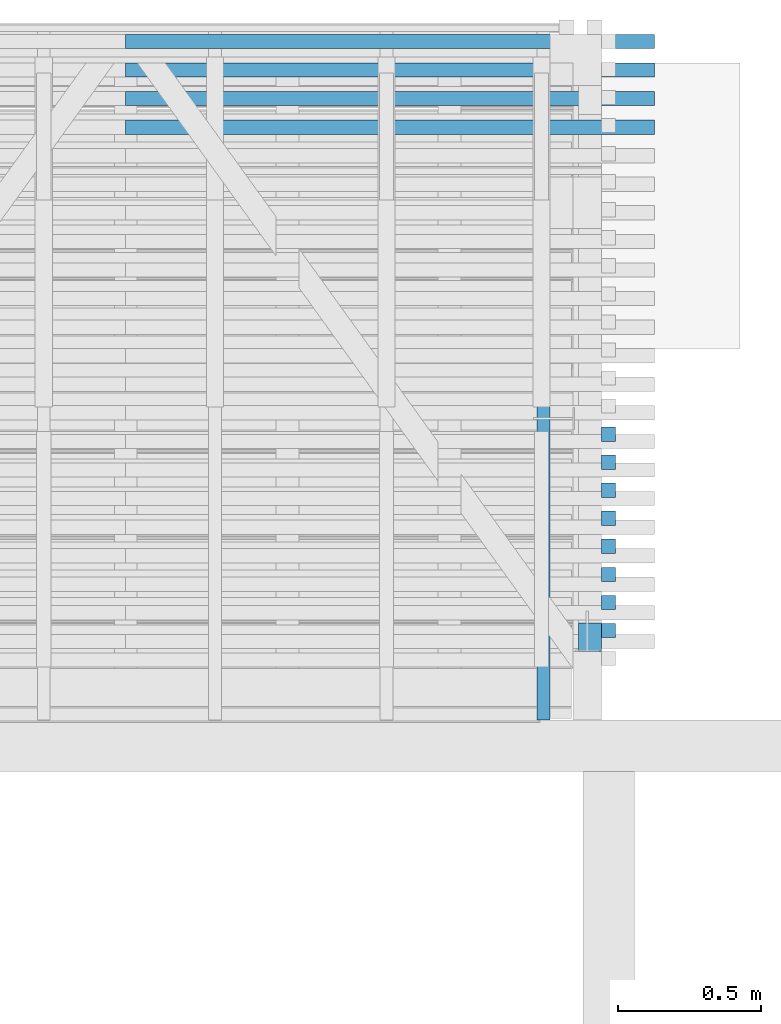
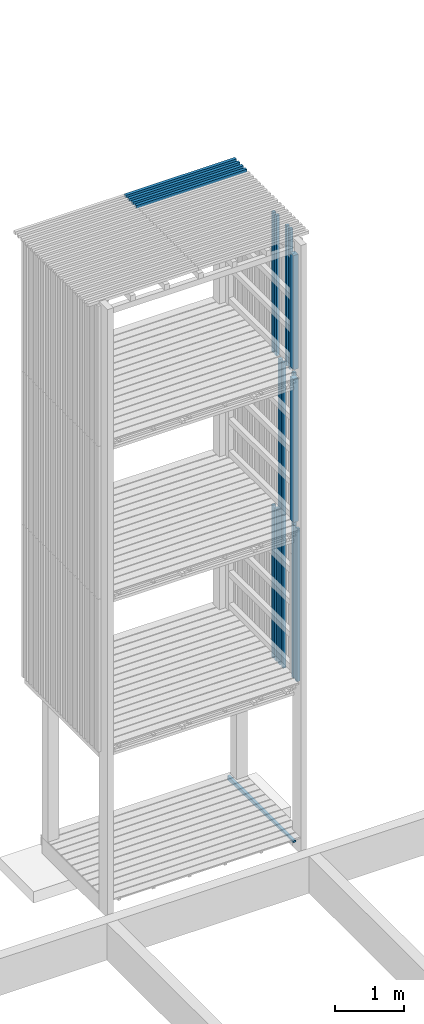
# One storey, part 154 of 182: 20 beams.
"""IFC2X3 building model written with IfcOpenShell, lengths in metres."""

from ifc_helpers import new_model, si_unit, frame, origin, place, context, project, spatial, faceted_brep, element, save


model = new_model("IFC2X3")

# Units and contexts
model_context = context("Model", 3, precision=1e-06, world=origin())
ifc_project = project(units=[si_unit("LENGTHUNIT", "METRE"), si_unit("PLANEANGLEUNIT", "RADIAN")], contexts=[model_context])

# Site, building, storey
site = spatial("IfcSite", under=ifc_project, CompositionType="ELEMENT")
building = spatial("IfcBuilding", under=site, CompositionType="ELEMENT")
storey = spatial("IfcBuildingStorey", under=building, Name="vs", CompositionType="ELEMENT", Elevation=-0.85)

# Beams
placement = place(None, origin())
beam_1_placement = place(placement, frame((36.40999999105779, 11.17598679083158, 2.575000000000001), z_axis=(-1.0, 0.0, 0.0), x_axis=(0.0, 0.0, 1.0)))
element("IfcBeam", 1, at=beam_1_placement, inside=storey, Name="Bardage", context=model_context, shape_type="Brep", body=[
    faceted_brep([(0.0, -0.025000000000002, 0.024999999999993), (0.0, 0.024999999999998, 0.024999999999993), (0.0, 0.024999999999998, -0.025000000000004), (0.0, -0.025000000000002, -0.025000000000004), (2.699961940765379, 0.025000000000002, -0.025000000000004), (2.699961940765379, 0.025000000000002, 0.024999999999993), (2.699961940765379, -0.025000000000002, 0.024999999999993), (2.699961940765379, -0.025000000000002, -0.025000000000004), (0.0, -0.025000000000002, -0.025000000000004), (0.0, 0.024999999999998, -0.025000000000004), (2.699961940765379, 0.025000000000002, -0.025000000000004), (2.699961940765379, -0.025000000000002, -0.025000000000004), (2.699961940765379, 0.025000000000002, -0.025000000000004), (0.0, 0.024999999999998, -0.025000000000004), (0.0, 0.024999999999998, 0.024999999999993), (2.699961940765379, 0.025000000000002, 0.024999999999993), (2.699961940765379, 0.025000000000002, 0.024999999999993), (0.0, 0.024999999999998, 0.024999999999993), (0.0, -0.025000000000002, 0.024999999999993), (2.699961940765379, -0.025000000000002, 0.024999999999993), (2.699961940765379, -0.025000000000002, 0.024999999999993), (0.0, -0.025000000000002, 0.024999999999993), (0.0, -0.025000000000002, -0.025000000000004), (2.699961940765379, -0.025000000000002, -0.025000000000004)], [[[0, 1, 2, 3]], [[4, 5, 6, 7]], [[8, 9, 10, 11]], [[12, 13, 14, 15]], [[16, 17, 18, 19]], [[20, 21, 22, 23]]]),
])
beam_2_placement = place(placement, frame((36.40999999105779, 11.470532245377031, 2.575000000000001), z_axis=(-1.0, 0.0, 0.0), x_axis=(0.0, 0.0, 1.0)))
element("IfcBeam", 2, at=beam_2_placement, inside=storey, Name="Bardage", context=model_context, shape_type="Brep", body=[
    faceted_brep([(0.0, -0.025000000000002, 0.024999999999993), (0.0, 0.025000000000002, 0.024999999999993), (0.0, 0.025000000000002, -0.025000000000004), (0.0, -0.025000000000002, -0.025000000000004), (2.699961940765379, 0.025000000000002, -0.025000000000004), (2.699961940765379, 0.025000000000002, 0.024999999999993), (2.699961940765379, -0.025000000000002, 0.024999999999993), (2.699961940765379, -0.025000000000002, -0.025000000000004), (0.0, -0.025000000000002, -0.025000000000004), (0.0, 0.025000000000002, -0.025000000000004), (2.699961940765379, 0.025000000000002, -0.025000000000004), (2.699961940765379, -0.025000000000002, -0.025000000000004), (2.699961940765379, 0.025000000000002, -0.025000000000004), (0.0, 0.025000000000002, -0.025000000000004), (0.0, 0.025000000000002, 0.024999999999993), (2.699961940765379, 0.025000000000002, 0.024999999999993), (2.699961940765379, 0.025000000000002, 0.024999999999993), (0.0, 0.025000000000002, 0.024999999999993), (0.0, -0.025000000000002, 0.024999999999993), (2.699961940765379, -0.025000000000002, 0.024999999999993), (2.699961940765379, -0.025000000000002, 0.024999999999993), (0.0, -0.025000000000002, 0.024999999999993), (0.0, -0.025000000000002, -0.025000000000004), (2.699961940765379, -0.025000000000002, -0.025000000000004)], [[[0, 1, 2, 3]], [[4, 5, 6, 7]], [[8, 9, 10, 11]], [[12, 13, 14, 15]], [[16, 17, 18, 19]], [[20, 21, 22, 23]]]),
])
beam_3_placement = place(placement, frame((36.40999999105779, 11.372350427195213, 7.974999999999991), z_axis=(-1.0, 0.0, 0.0), x_axis=(0.0, 0.0, 1.0)))
element("IfcBeam", 3, at=beam_3_placement, inside=storey, Name="Bardage", context=model_context, shape_type="Brep", body=[
    faceted_brep([(2.479999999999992, -0.024999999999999, 0.024999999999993), (2.479999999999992, -0.024999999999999, -0.025000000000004), (2.479999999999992, 0.024999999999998, -0.025000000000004), (2.479999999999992, 0.024999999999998, 0.024999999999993), (0.0, 0.024999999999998, 0.024999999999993), (0.0, -0.024999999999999, 0.024999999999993), (2.479999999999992, -0.024999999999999, 0.024999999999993), (2.479999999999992, 0.024999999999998, 0.024999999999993), (0.0, -0.024999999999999, 0.024999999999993), (0.0, 0.024999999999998, 0.024999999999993), (0.0, 0.024999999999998, -0.025000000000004), (0.0, -0.024999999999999, -0.025000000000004), (0.0, 0.024999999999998, -0.025000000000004), (0.0, 0.024999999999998, 0.024999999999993), (2.479999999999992, 0.024999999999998, 0.024999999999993), (2.479999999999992, 0.024999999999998, -0.025000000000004), (0.0, -0.024999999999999, -0.025000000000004), (0.0, 0.024999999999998, -0.025000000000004), (2.479999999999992, 0.024999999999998, -0.025000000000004), (2.479999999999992, -0.024999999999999, -0.025000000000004), (2.479999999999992, -0.024999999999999, 0.024999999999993), (0.0, -0.024999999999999, 0.024999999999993), (0.0, -0.024999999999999, -0.025000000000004), (2.479999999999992, -0.024999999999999, -0.025000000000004)], [[[0, 1, 2, 3]], [[4, 5, 6, 7]], [[8, 9, 10, 11]], [[12, 13, 14, 15]], [[16, 17, 18, 19]], [[20, 21, 22, 23]]]),
])
beam_4_placement = place(placement, frame((36.40999999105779, 10.881441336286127, 2.575000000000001), z_axis=(-1.0, 0.0, 0.0), x_axis=(0.0, 0.0, 1.0)))
element("IfcBeam", 4, at=beam_4_placement, inside=storey, Name="Bardage", context=model_context, shape_type="Brep", body=[
    faceted_brep([(0.0, -0.024999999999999, 0.024999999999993), (0.0, 0.025000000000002, 0.024999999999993), (0.0, 0.025000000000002, -0.025000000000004), (0.0, -0.024999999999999, -0.025000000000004), (2.699961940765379, 0.025000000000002, -0.025000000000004), (2.699961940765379, 0.025000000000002, 0.024999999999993), (2.699961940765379, -0.024999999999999, 0.024999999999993), (2.699961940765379, -0.024999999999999, -0.025000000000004), (0.0, -0.024999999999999, -0.025000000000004), (0.0, 0.025000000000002, -0.025000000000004), (2.699961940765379, 0.025000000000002, -0.025000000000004), (2.699961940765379, -0.024999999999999, -0.025000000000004), (2.699961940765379, 0.025000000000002, -0.025000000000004), (0.0, 0.025000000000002, -0.025000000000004), (0.0, 0.025000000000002, 0.024999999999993), (2.699961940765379, 0.025000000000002, 0.024999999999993), (2.699961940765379, 0.025000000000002, 0.024999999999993), (0.0, 0.025000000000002, 0.024999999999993), (0.0, -0.024999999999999, 0.024999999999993), (2.699961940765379, -0.024999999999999, 0.024999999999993), (2.699961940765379, -0.024999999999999, 0.024999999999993), (0.0, -0.024999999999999, 0.024999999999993), (0.0, -0.024999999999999, -0.025000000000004), (2.699961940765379, -0.024999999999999, -0.025000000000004)], [[[0, 1, 2, 3]], [[4, 5, 6, 7]], [[8, 9, 10, 11]], [[12, 13, 14, 15]], [[16, 17, 18, 19]], [[20, 21, 22, 23]]]),
])
beam_5_placement = place(placement, frame((36.40999999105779, 11.372350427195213, 2.575000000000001), z_axis=(-1.0, 0.0, 0.0), x_axis=(0.0, 0.0, 1.0)))
element("IfcBeam", 5, at=beam_5_placement, inside=storey, Name="Bardage", context=model_context, shape_type="Brep", body=[
    faceted_brep([(0.0, -0.024999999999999, 0.024999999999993), (0.0, 0.024999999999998, 0.024999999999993), (0.0, 0.024999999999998, -0.025000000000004), (0.0, -0.024999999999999, -0.025000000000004), (2.699961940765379, 0.025000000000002, -0.025000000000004), (2.699961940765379, 0.025000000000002, 0.024999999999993), (2.699961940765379, -0.024999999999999, 0.024999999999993), (2.699961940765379, -0.024999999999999, -0.025000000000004), (0.0, -0.024999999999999, -0.025000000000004), (0.0, 0.024999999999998, -0.025000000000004), (2.699961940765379, 0.025000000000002, -0.025000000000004), (2.699961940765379, -0.024999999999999, -0.025000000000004), (2.699961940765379, 0.025000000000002, -0.025000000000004), (0.0, 0.024999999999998, -0.025000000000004), (0.0, 0.024999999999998, 0.024999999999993), (2.699961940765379, 0.025000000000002, 0.024999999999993), (2.699961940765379, 0.025000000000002, 0.024999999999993), (0.0, 0.024999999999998, 0.024999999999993), (0.0, -0.024999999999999, 0.024999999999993), (2.699961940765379, -0.024999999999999, 0.024999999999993), (2.699961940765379, -0.024999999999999, 0.024999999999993), (0.0, -0.024999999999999, 0.024999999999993), (0.0, -0.024999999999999, -0.025000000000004), (2.699961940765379, -0.024999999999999, -0.025000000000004)], [[[0, 1, 2, 3]], [[4, 5, 6, 7]], [[8, 9, 10, 11]], [[12, 13, 14, 15]], [[16, 17, 18, 19]], [[20, 21, 22, 23]]]),
])
beam_6_placement = place(placement, frame((36.40999999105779, 11.17598679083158, 5.274999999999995), z_axis=(-1.0, 0.0, 0.0), x_axis=(0.0, 0.0, 1.0)))
element("IfcBeam", 6, at=beam_6_placement, inside=storey, Name="Bardage", context=model_context, shape_type="Brep", body=[
    faceted_brep([(1e-15, -0.025000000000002, 0.024999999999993), (1e-15, 0.024999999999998, 0.024999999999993), (1e-15, 0.024999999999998, -0.025000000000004), (1e-15, -0.025000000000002, -0.025000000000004), (2.699999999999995, -0.025000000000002, -0.025000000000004), (2.699999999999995, 0.024999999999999, -0.025000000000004), (2.699999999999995, 0.024999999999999, 0.024999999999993), (2.699999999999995, -0.025000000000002, 0.024999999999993), (1e-15, -0.025000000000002, 0.024999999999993), (1e-15, -0.025000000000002, -0.025000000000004), (2.699999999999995, -0.025000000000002, -0.025000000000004), (2.699999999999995, -0.025000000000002, 0.024999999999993), (2.699999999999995, -0.025000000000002, -0.025000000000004), (1e-15, -0.025000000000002, -0.025000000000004), (1e-15, 0.024999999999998, -0.025000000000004), (2.699999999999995, 0.024999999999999, -0.025000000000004), (2.699999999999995, 0.024999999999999, -0.025000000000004), (1e-15, 0.024999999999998, -0.025000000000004), (1e-15, 0.024999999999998, 0.024999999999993), (2.699999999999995, 0.024999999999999, 0.024999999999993), (2.699999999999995, 0.024999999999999, 0.024999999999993), (1e-15, 0.024999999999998, 0.024999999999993), (1e-15, -0.025000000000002, 0.024999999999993), (2.699999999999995, -0.025000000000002, 0.024999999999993)], [[[0, 1, 2, 3]], [[4, 5, 6, 7]], [[8, 9, 10, 11]], [[12, 13, 14, 15]], [[16, 17, 18, 19]], [[20, 21, 22, 23]]]),
])
beam_7_placement = place(placement, frame((36.344999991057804, 10.760077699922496, 8.14699999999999), z_axis=(0.0, 1.0, 0.0), x_axis=(0.0, 0.0, 1.0)))
element("IfcBeam", 7, at=beam_7_placement, inside=storey, Name="Support bardage", context=model_context, shape_type="Brep", body=[
    faceted_brep([(2.017999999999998, 0.039999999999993, -0.050000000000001), (2.017999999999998, 0.039999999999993, 0.05), (2.017999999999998, -0.04000000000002, 0.05), (2.017999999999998, -0.04000000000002, -0.050000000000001), (1e-15, -0.04000000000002, -0.050000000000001), (1e-15, -0.04000000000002, 0.05), (1e-15, 0.039999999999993, 0.05), (1e-15, 0.039999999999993, -0.050000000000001), (1e-15, -0.04000000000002, -0.050000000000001), (1e-15, 0.039999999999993, -0.050000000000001), (2.017999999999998, 0.039999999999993, -0.050000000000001), (2.017999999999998, -0.04000000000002, -0.050000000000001), (1e-15, -0.04000000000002, 0.05), (1e-15, -0.04000000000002, -0.050000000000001), (2.017999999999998, -0.04000000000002, -0.050000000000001), (2.017999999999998, -0.04000000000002, 0.05), (1e-15, 0.039999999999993, 0.05), (1e-15, -0.04000000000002, 0.05), (2.017999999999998, -0.04000000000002, 0.05), (2.017999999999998, 0.039999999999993, 0.05), (1e-15, 0.039999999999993, -0.050000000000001), (1e-15, 0.039999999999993, 0.05), (2.017999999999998, 0.039999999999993, 0.05), (2.017999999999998, 0.039999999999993, -0.050000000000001)], [[[0, 1, 2, 3]], [[4, 5, 6, 7]], [[8, 9, 10, 11]], [[12, 13, 14, 15]], [[16, 17, 18, 19]], [[20, 21, 22, 23]]]),
])
beam_8_placement = place(placement, frame((36.40999999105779, 11.077804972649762, 7.974999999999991), z_axis=(-1.0, 0.0, 0.0), x_axis=(0.0, 0.0, 1.0)))
element("IfcBeam", 8, at=beam_8_placement, inside=storey, Name="Bardage", context=model_context, shape_type="Brep", body=[
    faceted_brep([(2.479999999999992, -0.024999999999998, 0.024999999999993), (2.479999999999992, -0.024999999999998, -0.025000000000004), (2.479999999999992, 0.024999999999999, -0.025000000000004), (2.479999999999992, 0.024999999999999, 0.024999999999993), (0.0, 0.024999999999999, 0.024999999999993), (0.0, -0.024999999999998, 0.024999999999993), (2.479999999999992, -0.024999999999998, 0.024999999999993), (2.479999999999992, 0.024999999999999, 0.024999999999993), (0.0, -0.024999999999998, 0.024999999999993), (0.0, 0.024999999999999, 0.024999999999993), (0.0, 0.024999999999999, -0.025000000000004), (0.0, -0.024999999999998, -0.025000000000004), (0.0, 0.024999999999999, -0.025000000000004), (0.0, 0.024999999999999, 0.024999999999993), (2.479999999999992, 0.024999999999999, 0.024999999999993), (2.479999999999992, 0.024999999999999, -0.025000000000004), (0.0, -0.024999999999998, -0.025000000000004), (0.0, 0.024999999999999, -0.025000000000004), (2.479999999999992, 0.024999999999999, -0.025000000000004), (2.479999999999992, -0.024999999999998, -0.025000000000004), (2.479999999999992, -0.024999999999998, 0.024999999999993), (0.0, -0.024999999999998, 0.024999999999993), (0.0, -0.024999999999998, -0.025000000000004), (2.479999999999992, -0.024999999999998, -0.025000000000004)], [[[0, 1, 2, 3]], [[4, 5, 6, 7]], [[8, 9, 10, 11]], [[12, 13, 14, 15]], [[16, 17, 18, 19]], [[20, 21, 22, 23]]]),
])
beam_9_placement = place(placement, frame((36.40999999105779, 10.881441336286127, 5.274999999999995), z_axis=(-1.0, 0.0, 0.0), x_axis=(0.0, 0.0, 1.0)))
element("IfcBeam", 9, at=beam_9_placement, inside=storey, Name="Bardage", context=model_context, shape_type="Brep", body=[
    faceted_brep([(1e-15, -0.024999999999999, 0.024999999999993), (1e-15, 0.025000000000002, 0.024999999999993), (1e-15, 0.025000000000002, -0.025000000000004), (1e-15, -0.024999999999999, -0.025000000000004), (2.699999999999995, -0.024999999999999, -0.025000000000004), (2.699999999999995, 0.025000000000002, -0.025000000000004), (2.699999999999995, 0.025000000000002, 0.024999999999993), (2.699999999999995, -0.024999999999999, 0.024999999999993), (1e-15, -0.024999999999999, 0.024999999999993), (1e-15, -0.024999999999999, -0.025000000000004), (2.699999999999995, -0.024999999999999, -0.025000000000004), (2.699999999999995, -0.024999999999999, 0.024999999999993), (2.699999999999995, -0.024999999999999, -0.025000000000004), (1e-15, -0.024999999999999, -0.025000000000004), (1e-15, 0.025000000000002, -0.025000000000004), (2.699999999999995, 0.025000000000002, -0.025000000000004), (2.699999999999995, 0.025000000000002, -0.025000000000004), (1e-15, 0.025000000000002, -0.025000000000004), (1e-15, 0.025000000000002, 0.024999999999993), (2.699999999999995, 0.025000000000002, 0.024999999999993), (2.699999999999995, 0.025000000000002, 0.024999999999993), (1e-15, 0.025000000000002, 0.024999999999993), (1e-15, -0.024999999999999, 0.024999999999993), (2.699999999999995, -0.024999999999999, 0.024999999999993)], [[[0, 1, 2, 3]], [[4, 5, 6, 7]], [[8, 9, 10, 11]], [[12, 13, 14, 15]], [[16, 17, 18, 19]], [[20, 21, 22, 23]]]),
])
beam_10_placement = place(placement, frame((36.344999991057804, 10.760077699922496, 5.446999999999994), z_axis=(0.0, 1.0, 0.0), x_axis=(0.0, 0.0, 1.0)))
element("IfcBeam", 10, at=beam_10_placement, inside=storey, Name="Support bardage", context=model_context, shape_type="Brep", body=[
    faceted_brep([(2.527999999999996, -0.04000000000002, -0.050000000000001), (2.527999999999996, 0.039999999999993, -0.050000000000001), (2.527999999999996, 0.039999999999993, 0.05), (2.527999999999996, -0.04000000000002, 0.05), (-1e-15, -0.04000000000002, 0.05), (-1e-15, -0.04000000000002, -0.050000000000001), (2.527999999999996, -0.04000000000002, -0.050000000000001), (2.527999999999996, -0.04000000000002, 0.05), (-1e-15, -0.04000000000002, -0.050000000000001), (-1e-15, -0.04000000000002, 0.05), (-1e-15, 0.039999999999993, 0.05), (-1e-15, 0.039999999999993, -0.050000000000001), (2.527999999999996, -0.04000000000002, -0.050000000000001), (-1e-15, -0.04000000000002, -0.050000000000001), (-1e-15, 0.039999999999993, -0.050000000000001), (2.527999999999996, 0.039999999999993, -0.050000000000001), (2.527999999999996, 0.039999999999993, -0.050000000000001), (-1e-15, 0.039999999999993, -0.050000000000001), (-1e-15, 0.039999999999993, 0.05), (2.527999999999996, 0.039999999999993, 0.05), (2.527999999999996, 0.039999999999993, 0.05), (-1e-15, 0.039999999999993, 0.05), (-1e-15, -0.04000000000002, 0.05), (2.527999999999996, -0.04000000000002, 0.05)], [[[0, 1, 2, 3]], [[4, 5, 6, 7]], [[8, 9, 10, 11]], [[12, 13, 14, 15]], [[16, 17, 18, 19]], [[20, 21, 22, 23]]]),
])
beam_11_placement = place(placement, frame((36.182499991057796, 10.470077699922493, -0.015599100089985), z_axis=(0.0, 0.0, 1.0), x_axis=(0.0, 1.0, 0.0)))
element("IfcBeam", 11, at=beam_11_placement, inside=storey, Name="Calage", context=model_context, shape_type="Brep", body=[
    faceted_brep([(1.91000000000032, -0.022499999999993, -0.035599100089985), (0.0, -0.022499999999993, 0.002600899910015), (0.0, 0.022500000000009, 0.002600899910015), (1.91000000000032, 0.022500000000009, -0.035599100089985), (0.0, -0.022499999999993, 0.035599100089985), (0.0, 0.022500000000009, 0.035599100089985), (0.0, 0.022500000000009, 0.002600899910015), (0.0, -0.022499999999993, 0.002600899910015), (0.0, 0.022500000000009, 0.035599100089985), (0.0, -0.022499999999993, 0.035599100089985), (1.91000000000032, -0.022499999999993, 0.035599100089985), (1.91000000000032, 0.022500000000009, 0.035599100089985), (1.91000000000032, -0.022499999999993, 0.035599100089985), (0.0, -0.022499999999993, 0.035599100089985), (0.0, -0.022499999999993, 0.002600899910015), (1.91000000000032, -0.022499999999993, -0.035599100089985), (1.91000000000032, 0.022500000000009, 0.035599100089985), (1.91000000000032, -0.022499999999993, 0.035599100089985), (1.91000000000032, -0.022499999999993, -0.035599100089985), (1.91000000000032, 0.022500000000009, -0.035599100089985), (0.0, 0.022500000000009, 0.002600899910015), (0.0, 0.022500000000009, 0.035599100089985), (1.91000000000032, 0.022500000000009, 0.035599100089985), (1.91000000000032, 0.022500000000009, -0.035599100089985)], [[[0, 1, 2, 3]], [[4, 5, 6, 7]], [[8, 9, 10, 11]], [[12, 13, 14, 15]], [[16, 17, 18, 19]], [[20, 21, 22, 23]]]),
])
beam_12_placement = place(placement, frame((36.40999999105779, 10.979623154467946, 7.974999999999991), z_axis=(-1.0, 0.0, 0.0), x_axis=(0.0, 1e-15, 1.0)))
element("IfcBeam", 12, at=beam_12_placement, inside=storey, Name="Bardage", context=model_context, shape_type="Brep", body=[
    faceted_brep([(2.479999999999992, -0.025000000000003, 0.024999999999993), (2.479999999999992, -0.025000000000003, -0.025000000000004), (2.479999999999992, 0.024999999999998, -0.025000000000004), (2.479999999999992, 0.024999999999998, 0.024999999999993), (0.0, 0.025000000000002, 0.024999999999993), (0.0, -0.024999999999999, 0.024999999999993), (2.479999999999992, -0.025000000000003, 0.024999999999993), (2.479999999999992, 0.024999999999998, 0.024999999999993), (0.0, -0.024999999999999, 0.024999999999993), (0.0, 0.025000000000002, 0.024999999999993), (0.0, 0.025000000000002, -0.025000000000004), (0.0, -0.024999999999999, -0.025000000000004), (0.0, 0.025000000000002, -0.025000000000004), (0.0, 0.025000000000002, 0.024999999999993), (2.479999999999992, 0.024999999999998, 0.024999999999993), (2.479999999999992, 0.024999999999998, -0.025000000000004), (0.0, -0.024999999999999, -0.025000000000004), (0.0, 0.025000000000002, -0.025000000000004), (2.479999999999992, 0.024999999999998, -0.025000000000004), (2.479999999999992, -0.025000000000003, -0.025000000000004), (2.479999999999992, -0.025000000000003, 0.024999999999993), (0.0, -0.024999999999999, 0.024999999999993), (0.0, -0.024999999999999, -0.025000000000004), (2.479999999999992, -0.025000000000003, -0.025000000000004)], [[[0, 1, 2, 3]], [[4, 5, 6, 7]], [[8, 9, 10, 11]], [[12, 13, 14, 15]], [[16, 17, 18, 19]], [[20, 21, 22, 23]]]),
])
beam_13_placement = place(placement, frame((36.40999999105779, 11.274168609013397, 5.274999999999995), z_axis=(-1.0, 0.0, 0.0), x_axis=(0.0, 0.0, 1.0)))
element("IfcBeam", 13, at=beam_13_placement, inside=storey, Name="Bardage", context=model_context, shape_type="Brep", body=[
    faceted_brep([(1e-15, -0.025000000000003, 0.024999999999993), (1e-15, 0.024999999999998, 0.024999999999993), (1e-15, 0.024999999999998, -0.025000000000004), (1e-15, -0.025000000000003, -0.025000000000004), (2.699999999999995, -0.025000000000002, -0.025000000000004), (2.699999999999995, 0.024999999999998, -0.025000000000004), (2.699999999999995, 0.024999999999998, 0.024999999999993), (2.699999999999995, -0.025000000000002, 0.024999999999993), (1e-15, -0.025000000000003, 0.024999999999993), (1e-15, -0.025000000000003, -0.025000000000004), (2.699999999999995, -0.025000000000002, -0.025000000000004), (2.699999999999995, -0.025000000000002, 0.024999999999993), (2.699999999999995, -0.025000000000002, -0.025000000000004), (1e-15, -0.025000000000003, -0.025000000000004), (1e-15, 0.024999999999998, -0.025000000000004), (2.699999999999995, 0.024999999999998, -0.025000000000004), (2.699999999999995, 0.024999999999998, -0.025000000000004), (1e-15, 0.024999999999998, -0.025000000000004), (1e-15, 0.024999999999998, 0.024999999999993), (2.699999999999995, 0.024999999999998, 0.024999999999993), (2.699999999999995, 0.024999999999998, 0.024999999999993), (1e-15, 0.024999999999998, 0.024999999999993), (1e-15, -0.025000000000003, 0.024999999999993), (2.699999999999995, -0.025000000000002, 0.024999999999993)], [[[0, 1, 2, 3]], [[4, 5, 6, 7]], [[8, 9, 10, 11]], [[12, 13, 14, 15]], [[16, 17, 18, 19]], [[20, 21, 22, 23]]]),
])
beam_14_placement = place(placement, frame((36.40999999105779, 11.470532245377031, 7.974999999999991), z_axis=(-1.0, 0.0, 0.0), x_axis=(0.0, 0.0, 1.0)))
element("IfcBeam", 14, at=beam_14_placement, inside=storey, Name="Bardage", context=model_context, shape_type="Brep", body=[
    faceted_brep([(2.479999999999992, -0.025000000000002, 0.024999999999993), (2.479999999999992, -0.025000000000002, -0.025000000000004), (2.479999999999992, 0.025000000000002, -0.025000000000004), (2.479999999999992, 0.025000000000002, 0.024999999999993), (0.0, 0.025000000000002, 0.024999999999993), (0.0, -0.025000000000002, 0.024999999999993), (2.479999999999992, -0.025000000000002, 0.024999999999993), (2.479999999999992, 0.025000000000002, 0.024999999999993), (0.0, -0.025000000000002, 0.024999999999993), (0.0, 0.025000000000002, 0.024999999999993), (0.0, 0.025000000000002, -0.025000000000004), (0.0, -0.025000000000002, -0.025000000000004), (0.0, 0.025000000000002, -0.025000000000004), (0.0, 0.025000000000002, 0.024999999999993), (2.479999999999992, 0.025000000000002, 0.024999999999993), (2.479999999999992, 0.025000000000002, -0.025000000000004), (0.0, -0.025000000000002, -0.025000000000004), (0.0, 0.025000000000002, -0.025000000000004), (2.479999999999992, 0.025000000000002, -0.025000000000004), (2.479999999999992, -0.025000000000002, -0.025000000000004), (2.479999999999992, -0.025000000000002, 0.024999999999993), (0.0, -0.025000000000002, 0.024999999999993), (0.0, -0.025000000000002, -0.025000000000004), (2.479999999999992, -0.025000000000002, -0.025000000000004)], [[[0, 1, 2, 3]], [[4, 5, 6, 7]], [[8, 9, 10, 11]], [[12, 13, 14, 15]], [[16, 17, 18, 19]], [[20, 21, 22, 23]]]),
])
beam_15_placement = place(placement, frame((36.40999999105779, 10.783259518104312, 2.575000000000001), z_axis=(-1.0, 0.0, 0.0), x_axis=(0.0, 0.0, 1.0)))
element("IfcBeam", 15, at=beam_15_placement, inside=storey, Name="Bardage", context=model_context, shape_type="Brep", body=[
    faceted_brep([(0.0, -0.025000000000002, 0.024999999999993), (0.0, 0.024999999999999, 0.024999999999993), (0.0, 0.024999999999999, -0.025000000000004), (0.0, -0.025000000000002, -0.025000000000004), (2.699961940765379, 0.024999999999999, -0.025000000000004), (2.699961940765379, 0.024999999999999, 0.024999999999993), (2.699961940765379, -0.025000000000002, 0.024999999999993), (2.699961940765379, -0.025000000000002, -0.025000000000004), (0.0, -0.025000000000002, -0.025000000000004), (0.0, 0.024999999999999, -0.025000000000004), (2.699961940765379, 0.024999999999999, -0.025000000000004), (2.699961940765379, -0.025000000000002, -0.025000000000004), (2.699961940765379, 0.024999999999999, -0.025000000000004), (0.0, 0.024999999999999, -0.025000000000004), (0.0, 0.024999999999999, 0.024999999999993), (2.699961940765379, 0.024999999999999, 0.024999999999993), (2.699961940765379, 0.024999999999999, 0.024999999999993), (0.0, 0.024999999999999, 0.024999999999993), (0.0, -0.025000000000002, 0.024999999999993), (2.699961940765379, -0.025000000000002, 0.024999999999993), (2.699961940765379, -0.025000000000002, 0.024999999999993), (0.0, -0.025000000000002, 0.024999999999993), (0.0, -0.025000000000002, -0.025000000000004), (2.699961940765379, -0.025000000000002, -0.025000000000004)], [[[0, 1, 2, 3]], [[4, 5, 6, 7]], [[8, 9, 10, 11]], [[12, 13, 14, 15]], [[16, 17, 18, 19]], [[20, 21, 22, 23]]]),
])
beam_16_placement = place(placement, frame((36.569999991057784, 12.745077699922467, 10.47999999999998), z_axis=(0.0, 0.0, 1.0), x_axis=(-1.0, 0.0, 0.0)))
element("IfcBeam", 16, at=beam_16_placement, inside=storey, Name="Bardage", context=model_context, shape_type="Brep", body=[
    faceted_brep([(-3e-15, 0.024999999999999, 0.025000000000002), (-3e-15, -0.024999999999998, 0.025000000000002), (1.849999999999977, -0.024999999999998, 0.025000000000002), (1.849999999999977, 0.024999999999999, 0.025000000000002), (1.849999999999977, -0.024999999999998, 0.025000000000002), (-3e-15, -0.024999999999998, 0.025000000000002), (-3e-15, -0.024999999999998, -0.024999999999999), (1.849999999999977, -0.024999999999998, -0.024999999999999), (-3e-15, -0.024999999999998, 0.025000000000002), (-3e-15, 0.024999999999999, 0.025000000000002), (-3e-15, 0.024999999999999, -0.024999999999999), (-3e-15, -0.024999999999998, -0.024999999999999), (-3e-15, 0.024999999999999, -0.024999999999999), (-3e-15, 0.024999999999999, 0.025000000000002), (1.849999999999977, 0.024999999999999, 0.025000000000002), (1.849999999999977, 0.024999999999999, -0.024999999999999), (1.849999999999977, -0.024999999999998, -0.024999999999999), (-3e-15, -0.024999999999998, -0.024999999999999), (-3e-15, 0.024999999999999, -0.024999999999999), (1.849999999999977, 0.024999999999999, -0.024999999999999), (1.849999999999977, -0.024999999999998, 0.025000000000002), (1.849999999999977, -0.024999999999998, -0.024999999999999), (1.849999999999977, 0.024999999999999, -0.024999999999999), (1.849999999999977, 0.024999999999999, 0.025000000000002)], [[[0, 1, 2, 3]], [[4, 5, 6, 7]], [[8, 9, 10, 11]], [[12, 13, 14, 15]], [[16, 17, 18, 19]], [[20, 21, 22, 23]]]),
])
beam_17_placement = place(placement, frame((36.40999999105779, 11.274168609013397, 2.575000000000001), z_axis=(-1.0, 0.0, 0.0), x_axis=(0.0, 0.0, 1.0)))
element("IfcBeam", 17, at=beam_17_placement, inside=storey, Name="Bardage", context=model_context, shape_type="Brep", body=[
    faceted_brep([(0.0, -0.025000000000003, 0.024999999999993), (0.0, 0.024999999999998, 0.024999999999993), (0.0, 0.024999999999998, -0.025000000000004), (0.0, -0.025000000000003, -0.025000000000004), (2.699961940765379, 0.024999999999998, -0.025000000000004), (2.699961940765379, 0.024999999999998, 0.024999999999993), (2.699961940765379, -0.025000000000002, 0.024999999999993), (2.699961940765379, -0.025000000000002, -0.025000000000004), (0.0, -0.025000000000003, -0.025000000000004), (0.0, 0.024999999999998, -0.025000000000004), (2.699961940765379, 0.024999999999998, -0.025000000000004), (2.699961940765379, -0.025000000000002, -0.025000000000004), (2.699961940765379, 0.024999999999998, -0.025000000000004), (0.0, 0.024999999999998, -0.025000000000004), (0.0, 0.024999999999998, 0.024999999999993), (2.699961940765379, 0.024999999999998, 0.024999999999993), (2.699961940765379, 0.024999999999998, 0.024999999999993), (0.0, 0.024999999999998, 0.024999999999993), (0.0, -0.025000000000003, 0.024999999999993), (2.699961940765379, -0.025000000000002, 0.024999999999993), (2.699961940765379, -0.025000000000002, 0.024999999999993), (0.0, -0.025000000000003, 0.024999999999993), (0.0, -0.025000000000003, -0.025000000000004), (2.699961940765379, -0.025000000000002, -0.025000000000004)], [[[0, 1, 2, 3]], [[4, 5, 6, 7]], [[8, 9, 10, 11]], [[12, 13, 14, 15]], [[16, 17, 18, 19]], [[20, 21, 22, 23]]]),
])
beam_18_placement = place(placement, frame((36.569999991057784, 12.545077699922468, 10.47999999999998), z_axis=(0.0, 0.0, 1.0), x_axis=(-1.0, 0.0, 0.0)))
element("IfcBeam", 18, at=beam_18_placement, inside=storey, Name="Bardage", context=model_context, shape_type="Brep", body=[
    faceted_brep([(-3e-15, 0.025000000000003, 0.025000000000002), (-3e-15, -0.024999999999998, 0.025000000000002), (1.849999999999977, -0.025000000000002, 0.025000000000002), (1.849999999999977, 0.025000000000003, 0.025000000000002), (1.849999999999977, -0.025000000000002, 0.025000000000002), (-3e-15, -0.024999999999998, 0.025000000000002), (-3e-15, -0.024999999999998, -0.024999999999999), (1.849999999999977, -0.025000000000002, -0.024999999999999), (-3e-15, -0.024999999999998, 0.025000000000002), (-3e-15, 0.025000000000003, 0.025000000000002), (-3e-15, 0.025000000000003, -0.024999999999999), (-3e-15, -0.024999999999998, -0.024999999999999), (-3e-15, 0.025000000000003, -0.024999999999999), (-3e-15, 0.025000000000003, 0.025000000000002), (1.849999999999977, 0.025000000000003, 0.025000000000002), (1.849999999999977, 0.025000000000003, -0.024999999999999), (1.849999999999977, -0.025000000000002, -0.024999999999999), (-3e-15, -0.024999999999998, -0.024999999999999), (-3e-15, 0.025000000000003, -0.024999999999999), (1.849999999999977, 0.025000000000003, -0.024999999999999), (1.849999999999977, -0.025000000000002, 0.025000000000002), (1.849999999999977, -0.025000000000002, -0.024999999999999), (1.849999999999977, 0.025000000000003, -0.024999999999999), (1.849999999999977, 0.025000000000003, 0.025000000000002)], [[[0, 1, 2, 3]], [[4, 5, 6, 7]], [[8, 9, 10, 11]], [[12, 13, 14, 15]], [[16, 17, 18, 19]], [[20, 21, 22, 23]]]),
])
beam_19_placement = place(placement, frame((36.569999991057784, 12.845077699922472, 10.47999999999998), z_axis=(0.0, 0.0, 1.0), x_axis=(-1.0, 0.0, 0.0)))
element("IfcBeam", 19, at=beam_19_placement, inside=storey, Name="Bardage", context=model_context, shape_type="Brep", body=[
    faceted_brep([(-3e-15, 0.025000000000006, 0.025000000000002), (-3e-15, -0.024999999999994, 0.025000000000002), (1.849999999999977, -0.024999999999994, 0.025000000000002), (1.849999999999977, 0.025000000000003, 0.025000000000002), (1.849999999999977, -0.024999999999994, 0.025000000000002), (-3e-15, -0.024999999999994, 0.025000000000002), (-3e-15, -0.024999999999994, -0.024999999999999), (1.849999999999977, -0.024999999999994, -0.024999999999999), (-3e-15, -0.024999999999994, 0.025000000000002), (-3e-15, 0.025000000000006, 0.025000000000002), (-3e-15, 0.025000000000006, -0.024999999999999), (-3e-15, -0.024999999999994, -0.024999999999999), (-3e-15, 0.025000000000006, -0.024999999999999), (-3e-15, 0.025000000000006, 0.025000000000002), (1.849999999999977, 0.025000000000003, 0.025000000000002), (1.849999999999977, 0.025000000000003, -0.024999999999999), (1.849999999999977, -0.024999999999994, -0.024999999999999), (-3e-15, -0.024999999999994, -0.024999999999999), (-3e-15, 0.025000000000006, -0.024999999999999), (1.849999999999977, 0.025000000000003, -0.024999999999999), (1.849999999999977, -0.024999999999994, 0.025000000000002), (1.849999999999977, -0.024999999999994, -0.024999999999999), (1.849999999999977, 0.025000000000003, -0.024999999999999), (1.849999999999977, 0.025000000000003, 0.025000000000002)], [[[0, 1, 2, 3]], [[4, 5, 6, 7]], [[8, 9, 10, 11]], [[12, 13, 14, 15]], [[16, 17, 18, 19]], [[20, 21, 22, 23]]]),
])
beam_20_placement = place(placement, frame((36.569999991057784, 12.645077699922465, 10.47999999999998), z_axis=(0.0, 0.0, 1.0), x_axis=(-1.0, 0.0, 0.0)))
element("IfcBeam", 20, at=beam_20_placement, inside=storey, Name="Bardage", context=model_context, shape_type="Brep", body=[
    faceted_brep([(-3e-15, 0.024999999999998, 0.025000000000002), (-3e-15, -0.025000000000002, 0.025000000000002), (1.849999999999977, -0.025000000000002, 0.025000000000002), (1.849999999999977, 0.024999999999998, 0.025000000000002), (1.849999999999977, -0.025000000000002, 0.025000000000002), (-3e-15, -0.025000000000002, 0.025000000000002), (-3e-15, -0.025000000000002, -0.024999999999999), (1.849999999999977, -0.025000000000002, -0.024999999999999), (-3e-15, -0.025000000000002, 0.025000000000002), (-3e-15, 0.024999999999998, 0.025000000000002), (-3e-15, 0.024999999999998, -0.024999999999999), (-3e-15, -0.025000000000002, -0.024999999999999), (-3e-15, 0.024999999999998, -0.024999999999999), (-3e-15, 0.024999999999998, 0.025000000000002), (1.849999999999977, 0.024999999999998, 0.025000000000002), (1.849999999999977, 0.024999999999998, -0.024999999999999), (1.849999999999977, -0.025000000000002, -0.024999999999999), (-3e-15, -0.025000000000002, -0.024999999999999), (-3e-15, 0.024999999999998, -0.024999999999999), (1.849999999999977, 0.024999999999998, -0.024999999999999), (1.849999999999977, -0.025000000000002, 0.025000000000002), (1.849999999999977, -0.025000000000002, -0.024999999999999), (1.849999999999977, 0.024999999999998, -0.024999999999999), (1.849999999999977, 0.024999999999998, 0.025000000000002)], [[[0, 1, 2, 3]], [[4, 5, 6, 7]], [[8, 9, 10, 11]], [[12, 13, 14, 15]], [[16, 17, 18, 19]], [[20, 21, 22, 23]]]),
])

save(model, "model.ifc")
